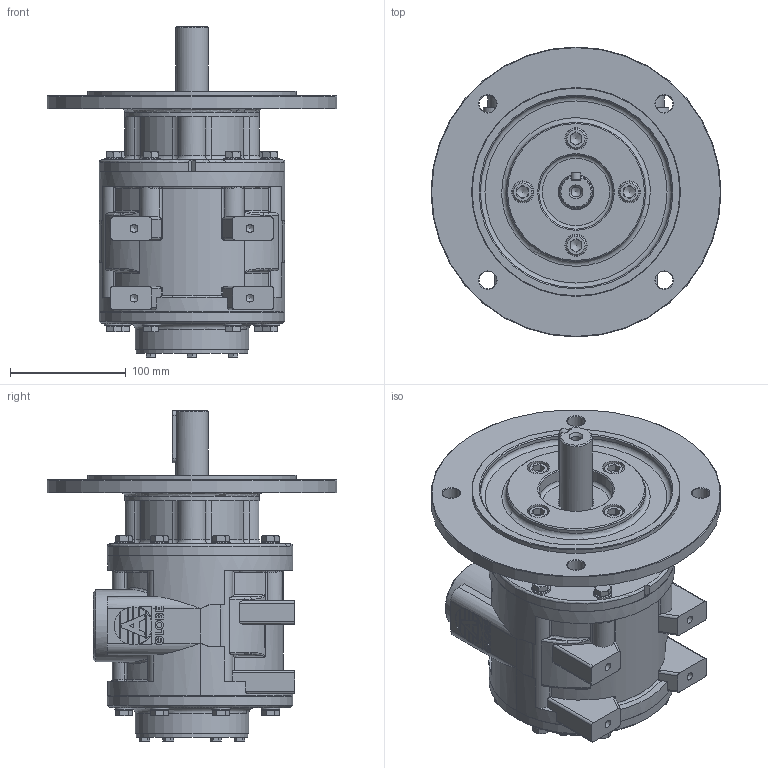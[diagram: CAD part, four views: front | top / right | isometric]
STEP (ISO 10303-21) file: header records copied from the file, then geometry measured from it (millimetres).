
FILE_DESCRIPTION (( 'STEP AP214' ), '1' );
FILE_NAME ('VS10C Defeature + Logo.STEP', '2023-05-23T11:19:43', ( '' ), ( '' ), 'SwSTEP 2.0', 'SolidWorks 2022', '' );
FILE_SCHEMA (( 'AUTOMOTIVE_DESIGN' ));
Length unit declared in the file: millimetre
Products named in the file (1): VS10C Defeature + Logo
Bounding box: 250 x 250 x 285.3 mm (x, y, z)
Volume: 4047489.7 mm3; surface area: 292191.1 mm2
Topology: 1 solids, 17 shells, 1086 faces, 2659 edges, 1642 vertices
Faces by surface type: plane 572, cylinder 213, cone 170, torus 58, bspline 51, sphere 22
Full cylindrical faces by diameter (mm): 6.8 x4, 8 x22, 8.4 x16, 8.5 x1, 13 x16, 15 x4, 16 x16, 18 x4, 19 x4, 28 x1, 30 x1, 30.5 x1, 38.952 x2, 62 x2, 64 x1, 96 x1, 98 x1, 116 x1, 120 x1, 158 x2, 160 x3, 165 x1, 180 x1, 250 x1
Entity records: 45287 total; most frequent: CARTESIAN_POINT 17358, ORIENTED_EDGE 4858, DIRECTION 4491, EDGE_CURVE 2429, AXIS2_PLACEMENT_3D 1765, VERTEX_POINT 1577, EDGE_LOOP 1328, FACE_OUTER_BOUND 1198
